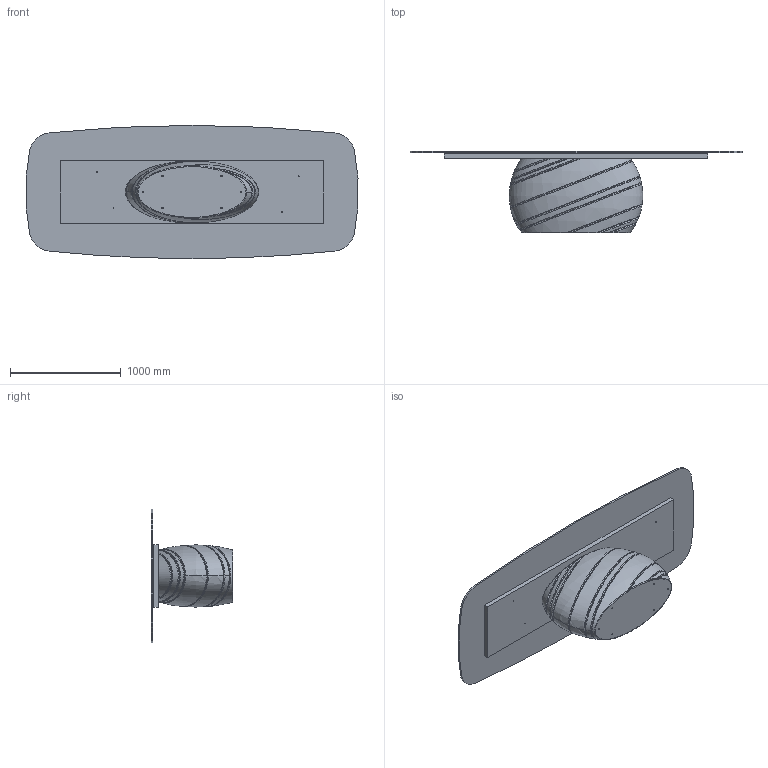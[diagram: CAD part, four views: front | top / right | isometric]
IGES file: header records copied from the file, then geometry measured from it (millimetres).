
Start section: SolidWorks IGES file using analytic representation for surfaces
Global section: file name: Y:\eforma\TECNICO\SOLIDWORKS\E-FORMA\1-TAVOLI\GIOVE\08 modelli 3D web\GI44G.IGS; native system: SolidWorks 2022; preprocessor: SolidWorks 2022; author: eforma.tech; date: 250422.161914; units: millimetre
Bounding box: 2991.72 x 737 x 1200 mm (x, y, z)
Volume: 420156955.6 mm3; surface area: 12492656.7 mm2
Topology: 3 solids, 3 shells, 153 faces, 372 edges, 240 vertices
Faces by surface type: revolution 69, bspline 53, plane 31
